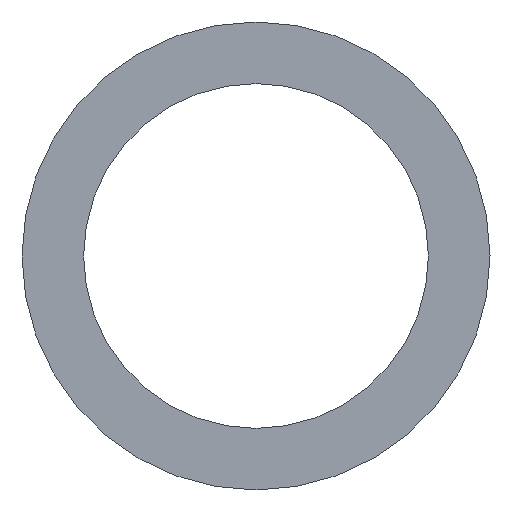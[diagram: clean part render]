
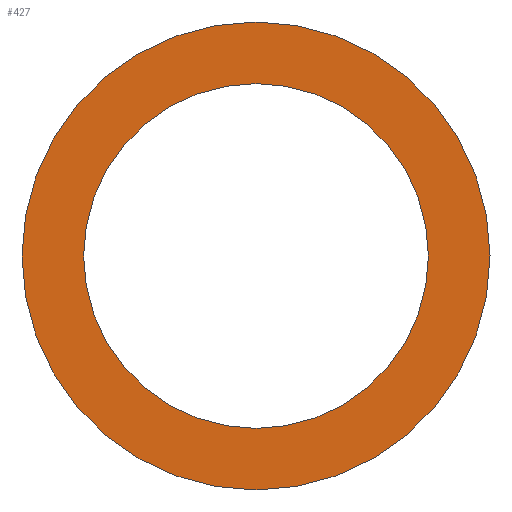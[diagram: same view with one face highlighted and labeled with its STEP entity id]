
A CAD part, left-side view. The second image highlights one B-rep face of the part: STEP entity #427.
In plain terms, the highlighted planar face has unit normal (-1, 0, 0) as drawn and (0, 0, -1) by its records, which use the part's own axes.
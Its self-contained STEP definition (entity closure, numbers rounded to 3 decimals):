
#427 = ADVANCED_FACE( '', ( #893, #894 ), #895, .F. );
#893 = FACE_OUTER_BOUND( '', #1363, .T. );
#894 = FACE_BOUND( '', #1364, .T. );
#895 = PLANE( '', #1365 );
#1363 = EDGE_LOOP( '', ( #1933 ) );
#1364 = EDGE_LOOP( '', ( #1934 ) );
#1365 = AXIS2_PLACEMENT_3D( '', #1935, #1936, #1937 );
#1933 = ORIENTED_EDGE( '', *, *, #2074, .T. );
#1934 = ORIENTED_EDGE( '', *, *, #2207, .F. );
#1935 = CARTESIAN_POINT( '', ( -35., 0., 0. ) );
#1936 = DIRECTION( '', ( 0., 0., 1. ) );
#1937 = DIRECTION( '', ( 1., 0., 0. ) );
#2074 = EDGE_CURVE( '', #2283, #2283, #2284, .T. );
#2207 = EDGE_CURVE( '', #2493, #2493, #2494, .T. );
#2283 = VERTEX_POINT( '', #2586 );
#2284 = CIRCLE( '', #2587, 47.5 );
#2493 = VERTEX_POINT( '', #2796 );
#2494 = CIRCLE( '', #2797, 35. );
#2586 = CARTESIAN_POINT( '', ( -47.5, 0., 0. ) );
#2587 = AXIS2_PLACEMENT_3D( '', #2892, #2893, #2894 );
#2796 = CARTESIAN_POINT( '', ( -35., 0., 0. ) );
#2797 = AXIS2_PLACEMENT_3D( '', #3123, #3124, #3125 );
#2892 = CARTESIAN_POINT( '', ( 0., 0., 0. ) );
#2893 = DIRECTION( '', ( 0., 0., -1. ) );
#2894 = DIRECTION( '', ( -1., 0., 0. ) );
#3123 = CARTESIAN_POINT( '', ( 0., 0., 0. ) );
#3124 = DIRECTION( '', ( 0., 0., -1. ) );
#3125 = DIRECTION( '', ( -1., 0., 0. ) );
